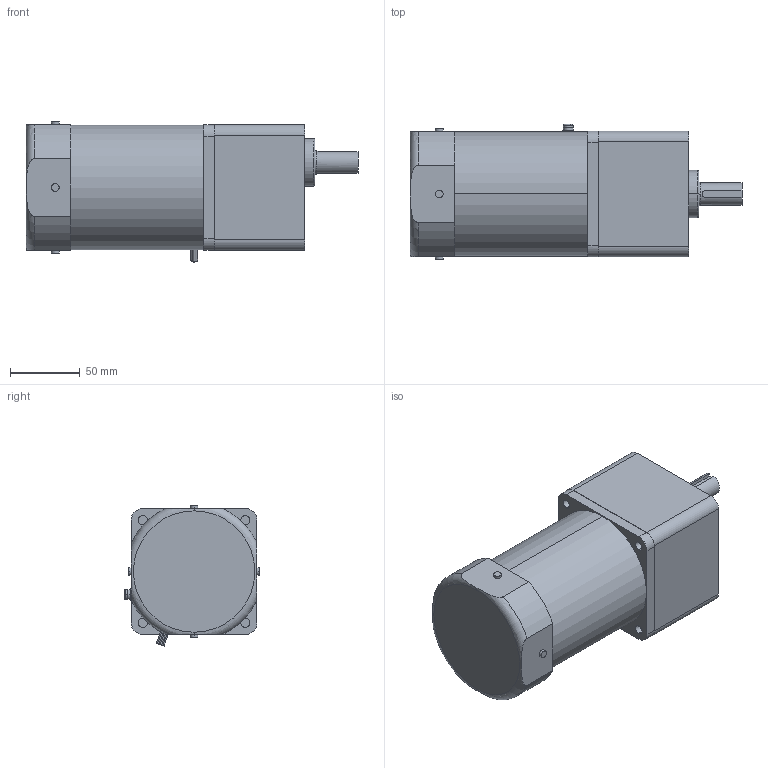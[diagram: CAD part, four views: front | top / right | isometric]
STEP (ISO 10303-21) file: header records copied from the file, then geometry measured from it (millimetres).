
FILE_DESCRIPTION(('starvars output'),'2;1');
FILE_NAME('5IK90GE-CW2E _ 5GE75SA.stp','10:54:17 2015/05/11',( 'Thomas Industrial Network Germany GmbH'),( 'Thomas Industrial Network Germany GmbH'),'unknown preprocess','ACIS' ,'unknown authorization');
FILE_SCHEMA(('AUTOMOTIVE_DESIGN_CC2 {UNKNOWN IMPLEMENTATION LEVEL}'));
Length unit declared in the file: millimetre
Products named in the file (1): PRODUCT_ID_2935
Bounding box: 238 x 97 x 100.42 mm (x, y, z)
Volume: 1402128.4 mm3; surface area: 89078.4 mm2
Topology: 1 solids, 1 shells, 148 faces, 335 edges, 215 vertices
Faces by surface type: cylinder 74, plane 60, torus 10, cone 4
Entity records: 5136 total; most frequent: CARTESIAN_POINT 890, ORIENTED_EDGE 666, DIRECTION 552, EDGE_CURVE 333, VERTEX_POINT 215, AXIS2_PLACEMENT_3D 205, EDGE_LOOP 176, FACE_BOUND 176
